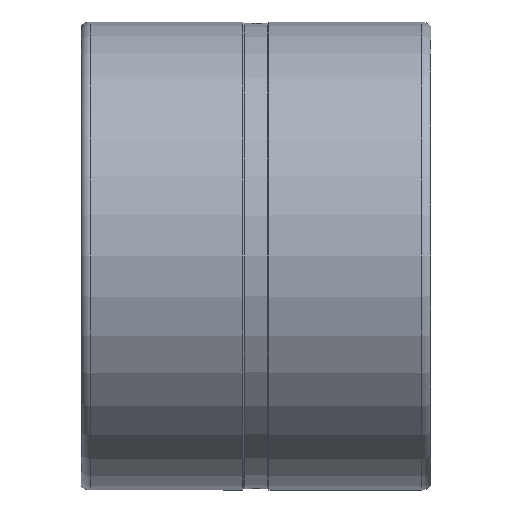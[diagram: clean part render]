
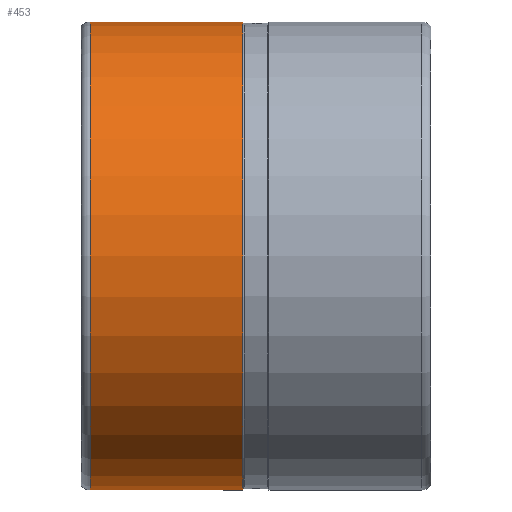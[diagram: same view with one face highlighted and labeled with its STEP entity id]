
A CAD part, front view. The second image highlights one B-rep face of the part: STEP entity #453.
In plain terms, the highlighted cylindrical face has radius 99 mm (diameter 198 mm), a full revolution.
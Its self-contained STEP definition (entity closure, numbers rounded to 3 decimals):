
#54=FACE_BOUND('',#200,.T.);
#93=CIRCLE('',#504,99.);
#94=CIRCLE('',#506,99.);
#124=CYLINDRICAL_SURFACE('',#505,99.);
#145=FACE_OUTER_BOUND('',#199,.T.);
#199=EDGE_LOOP('',(#383));
#200=EDGE_LOOP('',(#384));
#280=VERTEX_POINT('',#1166);
#281=VERTEX_POINT('',#1169);
#324=EDGE_CURVE('',#280,#280,#93,.T.);
#325=EDGE_CURVE('',#281,#281,#94,.T.);
#383=ORIENTED_EDGE('',*,*,#324,.T.);
#384=ORIENTED_EDGE('',*,*,#325,.F.);
#453=ADVANCED_FACE('',(#145,#54),#124,.T.);
#504=AXIS2_PLACEMENT_3D('',#1167,#605,#606);
#505=AXIS2_PLACEMENT_3D('',#1168,#607,#608);
#506=AXIS2_PLACEMENT_3D('',#1170,#609,#610);
#605=DIRECTION('center_axis',(-1.,0.,0.));
#606=DIRECTION('ref_axis',(0.,0.,1.));
#607=DIRECTION('center_axis',(-1.,0.,0.));
#608=DIRECTION('ref_axis',(0.,-1.,0.));
#609=DIRECTION('center_axis',(-1.,0.,0.));
#610=DIRECTION('ref_axis',(0.,0.,1.));
#1166=CARTESIAN_POINT('',(69.969,5.555,0.));
#1167=CARTESIAN_POINT('Origin',(69.969,104.555,0.));
#1168=CARTESIAN_POINT('Origin',(37.619,104.555,0.));
#1169=CARTESIAN_POINT('',(5.269,5.555,0.));
#1170=CARTESIAN_POINT('Origin',(5.269,104.555,0.));
